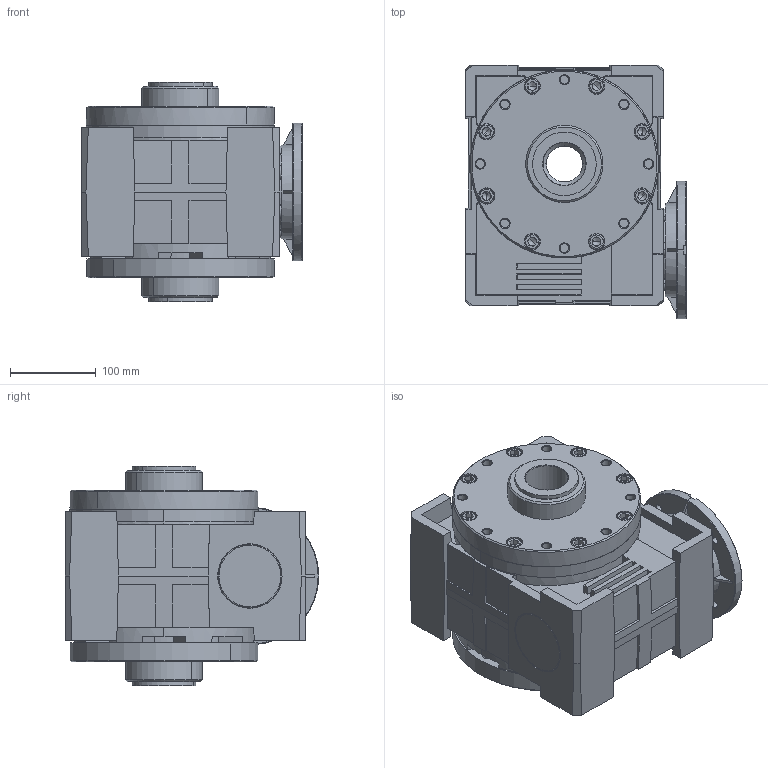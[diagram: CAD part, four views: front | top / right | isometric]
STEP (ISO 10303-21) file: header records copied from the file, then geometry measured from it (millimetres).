
FILE_DESCRIPTION (( 'STEP AP203' ), '1' );
FILE_NAME ('MRP-100_160-28_SP.STEP', '2024-04-04T12:40:00', ( '' ), ( '' ), 'SwSTEP 2.0', 'SolidWorks 2022', '' );
FILE_SCHEMA (( 'CONFIG_CONTROL_DESIGN' ));
Length unit declared in the file: millimetre
Products named in the file (1): MRP-100_160-28_SP
Bounding box: 257 x 295.23 x 256 mm (x, y, z)
Volume: 9915711 mm3; surface area: 695483.7 mm2
Topology: 1 solids, 50 shells, 1594 faces, 3788 edges, 2339 vertices
Faces by surface type: plane 755, cone 365, cylinder 297, torus 117, bspline 60
Entity records: 50074 total; most frequent: CARTESIAN_POINT 13313, DIRECTION 7830, ORIENTED_EDGE 7452, EDGE_CURVE 3726, AXIS2_PLACEMENT_3D 3025, VERTEX_POINT 2339, VECTOR 1780, LINE 1780
